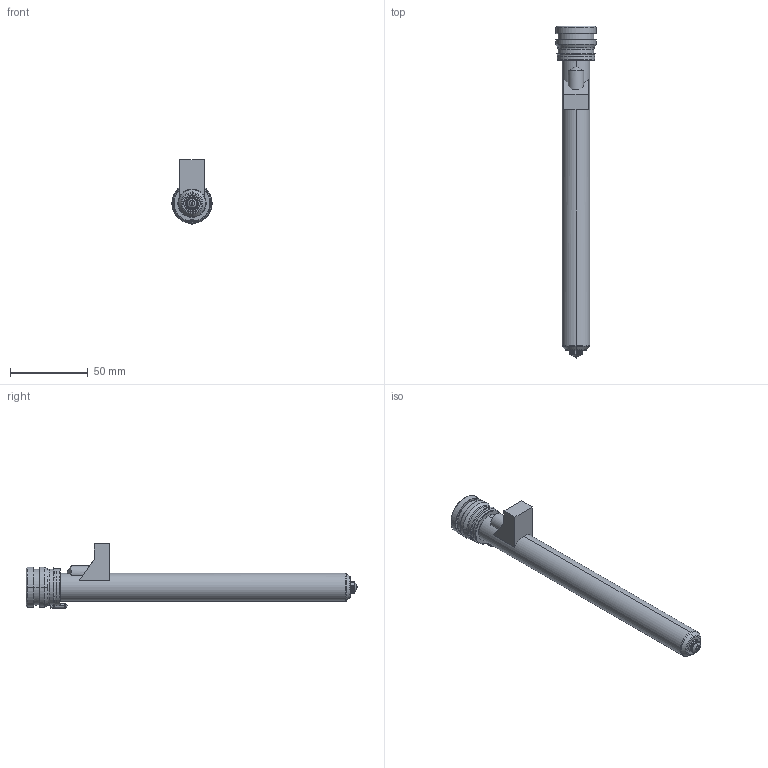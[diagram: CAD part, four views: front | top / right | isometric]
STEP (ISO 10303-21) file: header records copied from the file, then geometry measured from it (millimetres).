
FILE_DESCRIPTION((''),'2;1');
FILE_NAME('MPN-08-24-VSA8-196-M','2026-02-05T13:35:18',('UPTIO'),('Thermoplay S.p.A.'),'CREO PARAMETRIC BY PTC INC, 2023494','CREO PARAMETRIC BY PTC INC, 2023494','');
FILE_SCHEMA(('CONFIG_CONTROL_DESIGN','SHAPE_APPEARANCE_LAYERS_GROUPS'));
Length unit declared in the file: millimetre
Products named in the file (1): MPN-08-24-VSA8-196-M
Bounding box: 26 x 214 x 41.5 mm (x, y, z)
Volume: 39819.7 mm3; surface area: 53575.3 mm2
Topology: 2 solids, 3 shells, 527 faces, 1374 edges, 846 vertices
Faces by surface type: cylinder 176, plane 143, bspline 75, torus 60, cone 58, sphere 9, extrusion 6
Entity records: 27271 total; most frequent: CARTESIAN_POINT 11792, ORIENTED_EDGE 2730, DIRECTION 2497, EDGE_CURVE 1365, AXIS2_PLACEMENT_3D 975, VERTEX_POINT 846, EDGE_LOOP 557, VECTOR 547
